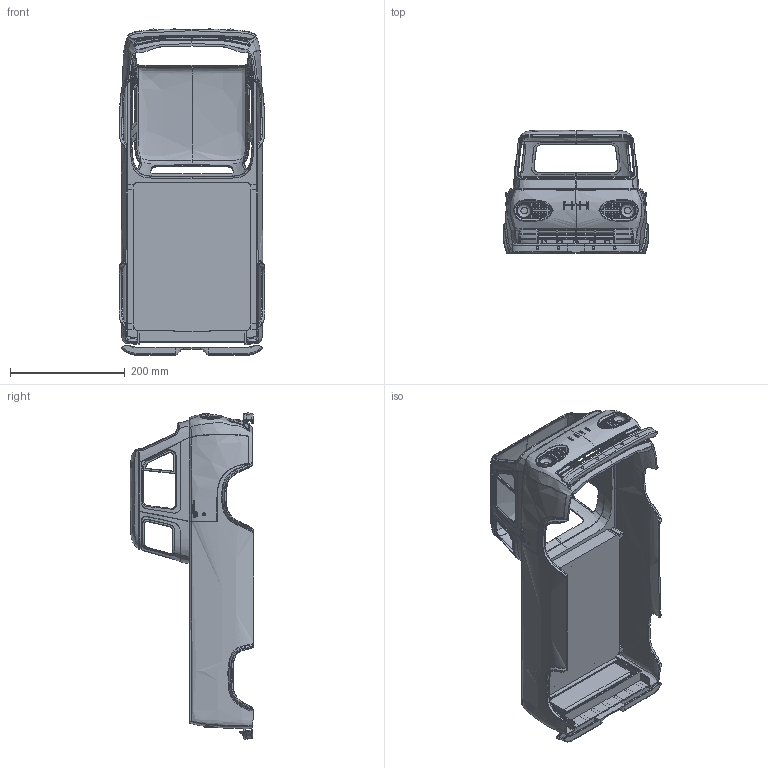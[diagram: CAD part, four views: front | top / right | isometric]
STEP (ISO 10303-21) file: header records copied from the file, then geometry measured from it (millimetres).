
FILE_DESCRIPTION(/* description */ (''),/* implementation_level */ '2;1');
FILE_NAME(/* name */ '/Users/alexbogusky/Desktop/Econoline Finished v1.step',/* time_stamp */ '2018-12-30T18:56:16-10:00',/* author */ ('alex@bogusky.me'),/* organization */ (''),/* preprocessor_version */ 'ST-DEVELOPER v17.2',/* originating_system */ 'Autodesk Translation Framework v7.6.0.251',/* authorisation */ '');
FILE_SCHEMA (('AUTOMOTIVE_DESIGN { 1 0 10303 214 3 1 1 }'));
Products named in the file (1): Econoline Finished
Bounding box: 253.75 x 215.46 x 568.57 mm (x, y, z)
Volume: 749015.7 mm3; surface area: 727020.8 mm2
Topology: 3 solids, 3 shells, 2924 faces, 8109 edges, 5192 vertices
Faces by surface type: bspline 1311, plane 850, cylinder 633, torus 101, sphere 29
Full cylindrical faces by diameter (mm): 3.145 x2, 15.488 x2, 15.791 x2, 17.529 x2, 19.488 x2, 23.5 x2, 26.557 x2, 27.5 x2
Entity records: 209638 total; most frequent: CARTESIAN_POINT 146593, ORIENTED_EDGE 16164, DIRECTION 8129, EDGE_CURVE 8082, VERTEX_POINT 5196, B_SPLINE_CURVE_WITH_KNOTS 4539, EDGE_LOOP 3204, AXIS2_PLACEMENT_3D 2988
